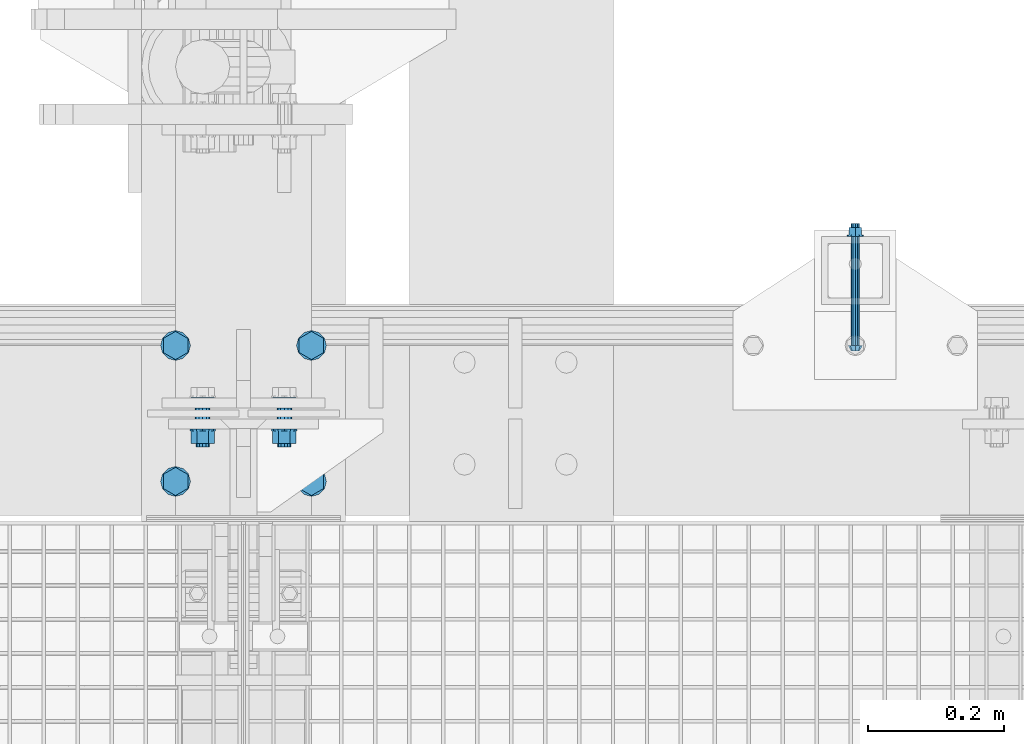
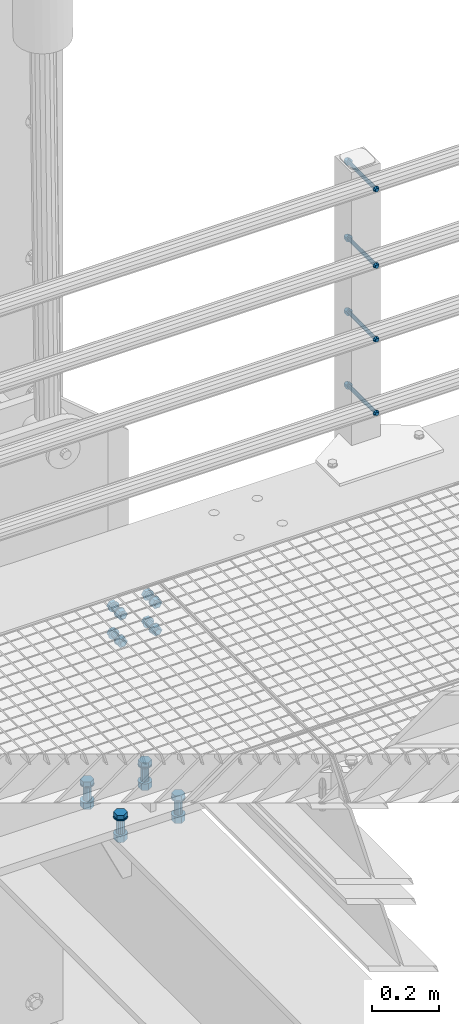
# One storey, part 47 of 1530: 6 mechanical fasteners.
"""IFC2X3 building model written with IfcOpenShell, lengths in millimetres."""

from ifc_helpers import new_model, si_unit, frame, origin_with_axes, place, context, subcontext, project, spatial, faceted_brep, source, transform, mapped, material, type_object, element, save


model = new_model("IFC2X3")

# Units and contexts
model_context = context("Model", 3, precision=1e-05, world=origin_with_axes())
body_context = subcontext(model_context, "Body", "Model", "MODEL_VIEW")
ifc_project = project(units=[si_unit("LENGTHUNIT", "METRE", prefix="MILLI"), si_unit("AREAUNIT", "SQUARE_METRE"), si_unit("VOLUMEUNIT", "CUBIC_METRE"), si_unit("MASSUNIT", "GRAM", prefix="KILO"), si_unit("TIMEUNIT", "SECOND"), si_unit("PLANEANGLEUNIT", "RADIAN"), si_unit("SOLIDANGLEUNIT", "STERADIAN"), si_unit("THERMODYNAMICTEMPERATUREUNIT", "DEGREE_CELSIUS"), si_unit("LUMINOUSINTENSITYUNIT", "LUMEN")], contexts=[model_context])

# Site, building, storey
site_placement = place(None, origin_with_axes())
site = spatial("IfcSite", under=ifc_project, at=site_placement, Name="Brattvåg", CompositionType="ELEMENT")
building_placement = place(site_placement, origin_with_axes())
building = spatial("IfcBuilding", under=site, at=building_placement, Name="Undefined", CompositionType="ELEMENT")
storey_placement = place(building_placement, origin_with_axes())
storey = spatial("IfcBuildingStorey", under=building, at=storey_placement, Name="Undefined", CompositionType="ELEMENT", Elevation=0.0)

# Mechanical fasteners
ifc_material = material(Name="8")
mechanical_fastener_type = type_object("IfcMechanicalFastenerType", Name="Bolt assembly")
shared_shape_1 = source(origin_with_axes(), body_context, "Body", "Brep", [
    faceted_brep([(6.49435320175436, -7.49984019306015, 0.0), (4.59220118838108, -7.49984019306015, 4.59220118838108), (3.97664443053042e-16, -7.49984019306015, 6.49435320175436), (-4.59220118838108, -7.49984019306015, 4.59220118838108), (-6.49435320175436, -7.49984019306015, 7.95328886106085e-16), (-4.59220118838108, -7.49984019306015, -4.59220118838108), (-1.19299332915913e-15, -7.49984019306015, -6.49435320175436), (4.59220118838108, -7.49984019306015, -4.59220118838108), (7.34846922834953, 0.000159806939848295, -7.34846922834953), (-1.90903542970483e-15, 0.000159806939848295, -10.3923048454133), (-7.34846922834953, 0.000159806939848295, -7.34846922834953), (-10.3923048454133, 0.000159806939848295, 1.27269028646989e-15), (-7.34846922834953, 0.000159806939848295, 7.34846922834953), (6.36345143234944e-16, 0.000159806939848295, 10.3923048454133), (7.34846922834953, 0.000159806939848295, 7.34846922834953), (10.3923048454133, 0.000159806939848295, 0.0), (6.0, 0.000159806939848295, 0.0), (5.19615242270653, 0.000159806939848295, 3.00000000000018), (2.99999999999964, 0.000159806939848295, 5.19615242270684), (-6.21801588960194e-13, 0.000159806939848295, 6.0), (-3.00000000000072, 0.000159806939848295, 5.19615242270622), (-5.19615242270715, 0.000159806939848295, 2.9999999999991), (-6.0, 0.000159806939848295, -1.24360317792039e-12), (-5.19615242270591, 0.000159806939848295, -3.00000000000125), (-2.99999999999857, 0.000159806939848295, -5.19615242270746), (1.85874342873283e-12, 0.000159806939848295, -6.0), (3.00000000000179, 0.000159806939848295, -5.1961524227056), (5.19615242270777, 0.000159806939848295, -2.99999999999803), (5.19615242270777, 180.00015980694, -2.99999999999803), (3.00000000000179, 180.00015980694, -5.1961524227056), (1.85874342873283e-12, 180.00015980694, -6.0), (-2.99999999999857, 180.00015980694, -5.19615242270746), (-5.19615242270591, 180.00015980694, -3.00000000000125), (-6.0, 180.00015980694, -1.24360317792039e-12), (-5.19615242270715, 180.00015980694, 2.9999999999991), (-3.00000000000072, 180.00015980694, 5.19615242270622), (-6.21801588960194e-13, 180.00015980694, 6.0), (2.99999999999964, 180.00015980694, 5.19615242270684), (5.19615242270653, 180.00015980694, 3.00000000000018), (6.0, 180.00015980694, 0.0), (12.0, 160.299998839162, 0.0), (10.3923048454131, 160.299998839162, 6.00000000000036), (5.99999999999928, 160.299998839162, 10.3923048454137), (-1.24360317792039e-12, 160.299998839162, 12.0), (-6.00000000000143, 160.299998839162, 10.3923048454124), (-10.3923048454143, 160.299998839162, 5.99999999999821), (-12.0, 160.299998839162, -2.48720635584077e-12), (-10.3923048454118, 160.299998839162, -6.00000000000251), (-5.99999999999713, 160.299998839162, -10.3923048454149), (3.71748685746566e-12, 160.299998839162, -12.0), (6.00000000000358, 160.299998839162, -10.3923048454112), (10.3923048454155, 160.299998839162, -5.99999999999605), (10.3923048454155, 162.799998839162, -5.99999999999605), (6.00000000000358, 162.799998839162, -10.3923048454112), (3.71748685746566e-12, 162.799998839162, -12.0), (-5.99999999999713, 162.799998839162, -10.3923048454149), (-10.3923048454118, 162.799998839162, -6.00000000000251), (-12.0, 162.799998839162, -2.48720635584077e-12), (-10.3923048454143, 162.799998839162, 5.99999999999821), (-6.00000000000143, 162.799998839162, 10.3923048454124), (-1.24360317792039e-12, 162.799998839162, 12.0), (5.99999999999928, 162.799998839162, 10.3923048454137), (10.3923048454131, 162.799998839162, 6.00000000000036), (12.0, 162.799998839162, 0.0), (10.9696551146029, 162.799998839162, 0.0), (5.48482755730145, 162.799998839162, 9.5), (-5.48482755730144, 162.799998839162, 9.5), (-10.9696551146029, 162.799998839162, 1.34339530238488e-15), (-5.48482755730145, 162.799998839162, -9.5), (5.48482755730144, 162.799998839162, -9.5), (5.48482755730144, 173.599999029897, -9.5), (-5.48482755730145, 173.599999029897, -9.5), (-10.9696551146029, 173.599999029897, 1.34339530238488e-15), (-5.48482755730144, 173.599999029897, 9.5), (5.48482755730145, 173.599999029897, 9.5), (10.9696551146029, 173.599999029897, 0.0)], [[[0, 1, 2, 3, 4, 5, 6, 7]], [[8, 9, 10, 11, 12, 13, 14, 15]], [[0, 15, 14, 1]], [[1, 14, 13, 2]], [[2, 13, 12, 3]], [[3, 12, 11, 4]], [[4, 11, 10, 5]], [[5, 10, 9, 6]], [[6, 9, 8, 7]], [[7, 8, 15, 0]], [[16, 17, 18, 19, 20, 21, 22, 23, 24, 25, 26, 27]], [[28, 29, 30, 31, 32, 33, 34, 35, 36, 37, 38, 39]], [[16, 39, 38, 17]], [[17, 38, 37, 18]], [[18, 37, 36, 19]], [[19, 36, 35, 20]], [[20, 35, 34, 21]], [[21, 34, 33, 22]], [[22, 33, 32, 23]], [[23, 32, 31, 24]], [[24, 31, 30, 25]], [[25, 30, 29, 26]], [[26, 29, 28, 27]], [[27, 28, 39, 16]], [[40, 41, 42, 43, 44, 45, 46, 47, 48, 49, 50, 51]], [[52, 53, 54, 55, 56, 57, 58, 59, 60, 61, 62, 63]], [[40, 63, 62, 41]], [[41, 62, 61, 42]], [[42, 61, 60, 43]], [[43, 60, 59, 44]], [[44, 59, 58, 45]], [[45, 58, 57, 46]], [[46, 57, 56, 47]], [[47, 56, 55, 48]], [[48, 55, 54, 49]], [[49, 54, 53, 50]], [[50, 53, 52, 51]], [[51, 52, 63, 40]], [[64, 65, 66, 67, 68, 69]], [[70, 71, 72, 73, 74, 75]], [[64, 75, 74, 65]], [[65, 74, 73, 66]], [[66, 73, 72, 67]], [[67, 72, 71, 68]], [[68, 71, 70, 69]], [[69, 70, 75, 64]]]),
    faceted_brep([(6.5, 0.100159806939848, 0.0), (5.62916512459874, 0.100159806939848, 3.25000000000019), (3.24999999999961, 0.100159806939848, 5.62916512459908), (-6.7361838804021e-13, 0.100159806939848, 6.5), (-3.25000000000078, 0.100159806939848, 5.6291651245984), (-5.62916512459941, 0.100159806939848, 3.24999999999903), (-6.5, 0.100159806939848, -1.34723677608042e-12), (-5.62916512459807, 0.100159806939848, -3.25000000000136), (-3.24999999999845, 0.100159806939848, -5.62916512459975), (2.01363871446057e-12, 0.100159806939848, -6.5), (3.25000000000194, 0.100159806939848, -5.62916512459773), (5.62916512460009, 0.100159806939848, -3.24999999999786), (5.62916512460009, 60.4001552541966, -3.24999999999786), (3.25000000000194, 60.4001552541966, -5.62916512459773), (2.01363871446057e-12, 60.4001552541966, -6.5), (-3.24999999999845, 60.4001552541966, -5.62916512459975), (-5.62916512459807, 60.4001552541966, -3.25000000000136), (-6.5, 60.4001552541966, -1.34723677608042e-12), (-5.62916512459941, 60.4001552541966, 3.24999999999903), (-3.25000000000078, 60.4001552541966, 5.6291651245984), (-6.7361838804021e-13, 60.4001552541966, 6.5), (3.24999999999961, 60.4001552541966, 5.62916512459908), (5.62916512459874, 60.4001552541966, 3.25000000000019), (6.5, 60.4001552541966, 0.0), (6.5, 60.1999988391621, 0.0), (5.62916512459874, 60.1999988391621, 3.25000000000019), (3.24999999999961, 60.1999988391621, 5.62916512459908), (-6.7361838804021e-13, 60.1999988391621, 6.5), (-3.25000000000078, 60.1999988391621, 5.6291651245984), (-5.62916512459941, 60.1999988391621, 3.24999999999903), (-6.5, 60.1999988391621, -1.34723677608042e-12), (-5.62916512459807, 60.1999988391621, -3.25000000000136), (-3.24999999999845, 60.1999988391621, -5.62916512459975), (2.01363871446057e-12, 60.1999988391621, -6.5), (3.25000000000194, 60.1999988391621, -5.62916512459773), (5.62916512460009, 60.1999988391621, -3.24999999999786), (5.62916512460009, 160.299998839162, -3.24999999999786), (3.25000000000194, 160.299998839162, -5.62916512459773), (2.01363871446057e-12, 160.299998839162, -6.5), (-3.24999999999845, 160.299998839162, -5.62916512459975), (-5.62916512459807, 160.299998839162, -3.25000000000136), (-6.5, 160.299998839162, -1.34723677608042e-12), (-5.62916512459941, 160.299998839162, 3.24999999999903), (-3.25000000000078, 160.299998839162, 5.6291651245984), (-6.7361838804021e-13, 160.299998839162, 6.5), (3.24999999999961, 160.299998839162, 5.62916512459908), (5.62916512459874, 160.299998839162, 3.25000000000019), (6.5, 160.299998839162, 0.0)], [[[0, 1, 2, 3, 4, 5, 6, 7, 8, 9, 10, 11]], [[12, 13, 14, 15, 16, 17, 18, 19, 20, 21, 22, 23]], [[0, 23, 22, 1]], [[1, 22, 21, 2]], [[2, 21, 20, 3]], [[3, 20, 19, 4]], [[4, 19, 18, 5]], [[5, 18, 17, 6]], [[6, 17, 16, 7]], [[7, 16, 15, 8]], [[8, 15, 14, 9]], [[9, 14, 13, 10]], [[10, 13, 12, 11]], [[11, 12, 23, 0]], [[24, 25, 26, 27, 28, 29, 30, 31, 32, 33, 34, 35]], [[36, 37, 38, 39, 40, 41, 42, 43, 44, 45, 46, 47]], [[24, 47, 46, 25]], [[25, 46, 45, 26]], [[26, 45, 44, 27]], [[27, 44, 43, 28]], [[28, 43, 42, 29]], [[29, 42, 41, 30]], [[30, 41, 40, 31]], [[31, 40, 39, 32]], [[32, 39, 38, 33]], [[33, 38, 37, 34]], [[34, 37, 36, 35]], [[35, 36, 47, 24]]]),
])
for number, where, z_axis, x_axis, name in (
    (1, (13149.9999999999, 9099.69972268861, 149.550000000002), (1.0, 0.0, 0.0), (0.0, 0.0, -1.0), "Bolt assembly"),
    (2, (13149.9999999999, 9099.69972268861, 419.550000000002), (1.0, 0.0, 0.0), (0.0, 0.0, -1.0), "Bolt assembly"),
    (3, (13149.9999999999, 9099.69972268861, 689.550000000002), (1.0, 0.0, 0.0), (0.0, 0.0, -1.0), "Bolt assembly"),
    (4, (13149.9999999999, 9099.69972268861, 969.550000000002), (1.0, 0.0, 0.0), (0.0, 0.0, -1.0), "Bolt assembly"),
):
    element("IfcMechanicalFastener", number, at=place(storey_placement, frame(where, z_axis=z_axis, x_axis=x_axis)), inside=storey, type_object=mechanical_fastener_type, material=ifc_material, Name=name, NominalDiameter=12.0, NominalLength=180.0, context=body_context, shape_type="MappedRepresentation", body=[
        mapped(shared_shape_1, transform((0.0, 0.0, 0.0))),
    ])
shared_shape_2 = source(origin_with_axes(), body_context, "Body", "Brep", [
    faceted_brep([(20.7846096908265, -19.0, 0.0), (10.3923048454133, -19.0, 18.0), (-10.3923048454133, -19.0, 18.0), (-20.7846096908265, -19.0, 2.54538057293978e-15), (-10.3923048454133, -19.0, -18.0), (10.3923048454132, -19.0, -18.0), (10.3923048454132, -4.0, -18.0), (-10.3923048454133, -4.0, -18.0), (-20.7846096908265, -4.0, 2.54538057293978e-15), (-10.3923048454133, -4.0, 18.0), (10.3923048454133, -4.0, 18.0), (20.7846096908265, -4.0, 0.0), (12.0, -4.0, 0.0), (10.3923048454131, -4.0, 6.00000000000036), (5.99999999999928, -4.0, 10.3923048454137), (-1.24360317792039e-12, -4.0, 12.0), (-6.00000000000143, -4.0, 10.3923048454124), (-10.3923048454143, -4.0, 5.99999999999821), (-12.0, -4.0, -2.48720635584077e-12), (-10.3923048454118, -4.0, -6.00000000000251), (-5.99999999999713, -4.0, -10.3923048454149), (3.71748685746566e-12, -4.0, -12.0), (6.00000000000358, -4.0, -10.3923048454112), (10.3923048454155, -4.0, -5.99999999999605), (10.3923048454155, 86.0, -5.99999999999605), (6.00000000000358, 86.0, -10.3923048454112), (3.71748685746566e-12, 86.0, -12.0), (-5.99999999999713, 86.0, -10.3923048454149), (-10.3923048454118, 86.0, -6.00000000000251), (-12.0, 86.0, -2.48720635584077e-12), (-10.3923048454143, 86.0, 5.99999999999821), (-6.00000000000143, 86.0, 10.3923048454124), (-1.24360317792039e-12, 86.0, 12.0), (5.99999999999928, 86.0, 10.3923048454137), (10.3923048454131, 86.0, 6.00000000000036), (12.0, 86.0, 0.0), (22.0, -4.0, 0.0), (19.0525588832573, -4.0, 11.0000000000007), (10.9999999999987, -4.0, 19.0525588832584), (-2.27993915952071e-12, -4.0, 22.0), (-11.0000000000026, -4.0, 19.0525588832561), (-19.0525588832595, -4.0, 10.9999999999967), (-22.0, -4.0, -4.55987831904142e-12), (-19.052558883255, -4.0, -11.0000000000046), (-10.9999999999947, -4.0, -19.0525588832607), (6.81539257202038e-12, -4.0, -22.0), (11.0000000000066, -4.0, -19.0525588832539), (19.0525588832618, -4.0, -10.9999999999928), (19.0525588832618, 0.0, -10.9999999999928), (11.0000000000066, 0.0, -19.0525588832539), (6.81539257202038e-12, 0.0, -22.0), (-10.9999999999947, 0.0, -19.0525588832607), (-19.052558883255, 0.0, -11.0000000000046), (-22.0, 0.0, -4.55987831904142e-12), (-19.0525588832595, 0.0, 10.9999999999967), (-11.0000000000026, 0.0, 19.0525588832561), (-2.27993915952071e-12, 0.0, 22.0), (10.9999999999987, 0.0, 19.0525588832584), (19.0525588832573, 0.0, 11.0000000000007), (22.0, 0.0, 0.0), (22.0, 54.9998779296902, 0.0), (19.0525588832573, 54.9998779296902, 11.0000000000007), (10.9999999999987, 54.9998779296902, 19.0525588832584), (-2.27993915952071e-12, 54.9998779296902, 22.0), (-11.0000000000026, 54.9998779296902, 19.0525588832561), (-19.0525588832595, 54.9998779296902, 10.9999999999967), (-22.0, 54.9998779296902, -4.55987831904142e-12), (-19.052558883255, 54.9998779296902, -11.0000000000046), (-10.9999999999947, 54.9998779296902, -19.0525588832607), (6.81539257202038e-12, 54.9998779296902, -22.0), (11.0000000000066, 54.9998779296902, -19.0525588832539), (19.0525588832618, 54.9998779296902, -10.9999999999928), (19.0525588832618, 58.9998779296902, -10.9999999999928), (11.0000000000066, 58.9998779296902, -19.0525588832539), (6.81539257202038e-12, 58.9998779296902, -22.0), (-10.9999999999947, 58.9998779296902, -19.0525588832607), (-19.052558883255, 58.9998779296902, -11.0000000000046), (-22.0, 58.9998779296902, -4.55987831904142e-12), (-19.0525588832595, 58.9998779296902, 10.9999999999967), (-11.0000000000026, 58.9998779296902, 19.0525588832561), (-2.27993915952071e-12, 58.9998779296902, 22.0), (10.9999999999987, 58.9998779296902, 19.0525588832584), (19.0525588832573, 58.9998779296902, 11.0000000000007), (22.0, 58.9998779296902, 0.0), (20.7846096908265, 58.9998779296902, 0.0), (10.3923048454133, 58.9998779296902, 18.0), (-10.3923048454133, 58.9998779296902, 18.0), (-20.7846096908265, 58.9998779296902, 2.54538057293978e-15), (-10.3923048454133, 58.9998779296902, -18.0), (10.3923048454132, 58.9998779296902, -18.0), (10.3923048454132, 80.4998779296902, -18.0), (-10.3923048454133, 80.4998779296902, -18.0), (-20.7846096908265, 80.4998779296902, 2.54538057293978e-15), (-10.3923048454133, 80.4998779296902, 18.0), (10.3923048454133, 80.4998779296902, 18.0), (20.7846096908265, 80.4998779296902, 0.0)], [[[0, 1, 2, 3, 4, 5]], [[6, 7, 8, 9, 10, 11]], [[0, 11, 10, 1]], [[1, 10, 9, 2]], [[2, 9, 8, 3]], [[3, 8, 7, 4]], [[4, 7, 6, 5]], [[5, 6, 11, 0]], [[12, 13, 14, 15, 16, 17, 18, 19, 20, 21, 22, 23]], [[24, 25, 26, 27, 28, 29, 30, 31, 32, 33, 34, 35]], [[12, 35, 34, 13]], [[13, 34, 33, 14]], [[14, 33, 32, 15]], [[15, 32, 31, 16]], [[16, 31, 30, 17]], [[17, 30, 29, 18]], [[18, 29, 28, 19]], [[19, 28, 27, 20]], [[20, 27, 26, 21]], [[21, 26, 25, 22]], [[22, 25, 24, 23]], [[23, 24, 35, 12]], [[36, 37, 38, 39, 40, 41, 42, 43, 44, 45, 46, 47]], [[48, 49, 50, 51, 52, 53, 54, 55, 56, 57, 58, 59]], [[36, 59, 58, 37]], [[37, 58, 57, 38]], [[38, 57, 56, 39]], [[39, 56, 55, 40]], [[40, 55, 54, 41]], [[41, 54, 53, 42]], [[42, 53, 52, 43]], [[43, 52, 51, 44]], [[44, 51, 50, 45]], [[45, 50, 49, 46]], [[46, 49, 48, 47]], [[47, 48, 59, 36]], [[60, 61, 62, 63, 64, 65, 66, 67, 68, 69, 70, 71]], [[72, 73, 74, 75, 76, 77, 78, 79, 80, 81, 82, 83]], [[60, 83, 82, 61]], [[61, 82, 81, 62]], [[62, 81, 80, 63]], [[63, 80, 79, 64]], [[64, 79, 78, 65]], [[65, 78, 77, 66]], [[66, 77, 76, 67]], [[67, 76, 75, 68]], [[68, 75, 74, 69]], [[69, 74, 73, 70]], [[70, 73, 72, 71]], [[71, 72, 83, 60]], [[84, 85, 86, 87, 88, 89]], [[90, 91, 92, 93, 94, 95]], [[84, 95, 94, 85]], [[85, 94, 93, 86]], [[86, 93, 92, 87]], [[87, 92, 91, 88]], [[88, 91, 90, 89]], [[89, 90, 95, 84]]]),
    faceted_brep([(13.0, 0.0999999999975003, 0.0), (11.2583302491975, 0.0999999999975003, 6.50000000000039), (6.49999999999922, 0.0999999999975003, 11.2583302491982), (-1.34723677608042e-12, 0.0999999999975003, 13.0), (-6.50000000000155, 0.0999999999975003, 11.2583302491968), (-11.2583302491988, 0.0999999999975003, 6.49999999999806), (-13.0, 0.0999999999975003, -2.69447355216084e-12), (-11.2583302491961, 0.0999999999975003, -6.50000000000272), (-6.4999999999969, 0.0999999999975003, -11.2583302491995), (4.02727742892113e-12, 0.0999999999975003, -13.0), (6.50000000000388, 0.0999999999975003, -11.2583302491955), (11.2583302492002, 0.0999999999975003, -6.49999999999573), (11.2583302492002, 30.1, -6.49999999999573), (6.50000000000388, 30.1, -11.2583302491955), (4.02727742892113e-12, 30.1, -13.0), (-6.4999999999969, 30.1, -11.2583302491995), (-11.2583302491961, 30.1, -6.50000000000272), (-13.0, 30.1, -2.69447355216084e-12), (-11.2583302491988, 30.1, 6.49999999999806), (-6.50000000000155, 30.1, 11.2583302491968), (-1.34723677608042e-12, 30.1, 13.0), (6.49999999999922, 30.1, 11.2583302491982), (11.2583302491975, 30.1, 6.50000000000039), (13.0, 30.1, 0.0), (13.0, 29.8998779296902, 0.0), (11.2583302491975, 29.8998779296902, 6.50000000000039), (6.49999999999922, 29.8998779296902, 11.2583302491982), (-1.34723677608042e-12, 29.8998779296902, 13.0), (-6.50000000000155, 29.8998779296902, 11.2583302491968), (-11.2583302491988, 29.8998779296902, 6.49999999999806), (-13.0, 29.8998779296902, -2.69447355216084e-12), (-11.2583302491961, 29.8998779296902, -6.50000000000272), (-6.4999999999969, 29.8998779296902, -11.2583302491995), (4.02727742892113e-12, 29.8998779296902, -13.0), (6.50000000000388, 29.8998779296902, -11.2583302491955), (11.2583302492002, 29.8998779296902, -6.49999999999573), (11.2583302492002, 54.9998779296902, -6.49999999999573), (6.50000000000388, 54.9998779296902, -11.2583302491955), (4.02727742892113e-12, 54.9998779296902, -13.0), (-6.4999999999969, 54.9998779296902, -11.2583302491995), (-11.2583302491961, 54.9998779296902, -6.50000000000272), (-13.0, 54.9998779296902, -2.69447355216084e-12), (-11.2583302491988, 54.9998779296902, 6.49999999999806), (-6.50000000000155, 54.9998779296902, 11.2583302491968), (-1.34723677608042e-12, 54.9998779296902, 13.0), (6.49999999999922, 54.9998779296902, 11.2583302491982), (11.2583302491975, 54.9998779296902, 6.50000000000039), (13.0, 54.9998779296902, 0.0)], [[[0, 1, 2, 3, 4, 5, 6, 7, 8, 9, 10, 11]], [[12, 13, 14, 15, 16, 17, 18, 19, 20, 21, 22, 23]], [[0, 23, 22, 1]], [[1, 22, 21, 2]], [[2, 21, 20, 3]], [[3, 20, 19, 4]], [[4, 19, 18, 5]], [[5, 18, 17, 6]], [[6, 17, 16, 7]], [[7, 16, 15, 8]], [[8, 15, 14, 9]], [[9, 14, 13, 10]], [[10, 13, 12, 11]], [[11, 12, 23, 0]], [[24, 25, 26, 27, 28, 29, 30, 31, 32, 33, 34, 35]], [[36, 37, 38, 39, 40, 41, 42, 43, 44, 45, 46, 47]], [[24, 47, 46, 25]], [[25, 46, 45, 26]], [[26, 45, 44, 27]], [[27, 44, 43, 28]], [[28, 43, 42, 29]], [[29, 42, 41, 30]], [[30, 41, 40, 31]], [[31, 40, 39, 32]], [[32, 39, 38, 33]], [[33, 38, 37, 34]], [[34, 37, 36, 35]], [[35, 36, 47, 24]]]),
])
mechanical_fastener_1_placement = place(storey_placement, frame((12250.0000839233, 9100.0, -860.0), z_axis=(1.0, 0.0, 0.0), x_axis=(0.0, -1.0, 0.0)))
element("IfcMechanicalFastener", 5, at=mechanical_fastener_1_placement, inside=storey, type_object=mechanical_fastener_type, material=ifc_material, Name="Bolt assembly", NominalDiameter=24.0, NominalLength=90.0, context=body_context, shape_type="MappedRepresentation", body=[
    mapped(shared_shape_2, transform((0.0, 0.0, -100.0))),
    mapped(shared_shape_2, transform((200.0, 0.0, -100.0))),
    mapped(shared_shape_2, transform((0.0, 0.0, 100.0))),
    mapped(shared_shape_2, transform((200.0, 0.0, 100.0))),
])
shared_shape_3 = source(origin_with_axes(), body_context, "Body", "Brep", [
    faceted_brep([(17.3205080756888, -31.4985046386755, 0.0), (8.66025403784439, -31.4985046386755, 15.0), (-8.66025403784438, -31.4985046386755, 15.0), (-17.3205080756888, -31.4985046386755, 2.12115047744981e-15), (-8.66025403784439, -31.4985046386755, -15.0), (8.66025403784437, -31.4985046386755, -15.0), (8.66025403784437, -18.9985046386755, -15.0), (-8.66025403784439, -18.9985046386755, -15.0), (-17.3205080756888, -18.9985046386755, 2.12115047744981e-15), (-8.66025403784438, -18.9985046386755, 15.0), (8.66025403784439, -18.9985046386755, 15.0), (17.3205080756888, -18.9985046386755, 0.0), (10.0, -18.9985046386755, 0.0), (8.66025403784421, -18.9985046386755, 5.0000000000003), (4.9999999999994, -18.9985046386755, 8.66025403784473), (-1.03633598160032e-12, -18.9985046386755, 10.0), (-5.00000000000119, -18.9985046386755, 8.6602540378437), (-8.66025403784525, -18.9985046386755, 4.99999999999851), (-10.0, -18.9985046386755, -2.07267196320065e-12), (-8.66025403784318, -18.9985046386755, -5.00000000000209), (-4.99999999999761, -18.9985046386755, -8.66025403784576), (3.09790571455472e-12, -18.9985046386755, -10.0), (5.00000000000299, -18.9985046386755, -8.66025403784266), (8.66025403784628, -18.9985046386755, -4.99999999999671), (8.66025403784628, 41.0014953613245, -4.99999999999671), (5.00000000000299, 41.0014953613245, -8.66025403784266), (3.09790571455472e-12, 41.0014953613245, -10.0), (-4.99999999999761, 41.0014953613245, -8.66025403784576), (-8.66025403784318, 41.0014953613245, -5.00000000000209), (-10.0, 41.0014953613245, -2.07267196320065e-12), (-8.66025403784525, 41.0014953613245, 4.99999999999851), (-5.00000000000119, 41.0014953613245, 8.6602540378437), (-1.03633598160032e-12, 41.0014953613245, 10.0), (4.9999999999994, 41.0014953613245, 8.66025403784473), (8.66025403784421, 41.0014953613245, 5.0000000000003), (10.0, 41.0014953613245, 0.0), (18.5, -18.9985046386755, 0.0), (16.0214699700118, -18.9985046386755, 9.25000000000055), (9.2499999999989, -18.9985046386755, 16.0214699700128), (-1.9172215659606e-12, -18.9985046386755, 18.5), (-9.25000000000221, -18.9985046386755, 16.0214699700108), (-16.0214699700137, -18.9985046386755, 9.24999999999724), (-18.5, -18.9985046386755, -3.83444313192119e-12), (-16.0214699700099, -18.9985046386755, -9.25000000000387), (-9.24999999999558, -18.9985046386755, -16.0214699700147), (5.73112557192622e-12, -18.9985046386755, -18.5), (9.25000000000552, -18.9985046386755, -16.0214699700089), (16.0214699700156, -18.9985046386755, -9.24999999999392), (16.0214699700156, -15.9985046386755, -9.24999999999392), (9.25000000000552, -15.9985046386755, -16.0214699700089), (5.73112557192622e-12, -15.9985046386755, -18.5), (-9.24999999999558, -15.9985046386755, -16.0214699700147), (-16.0214699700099, -15.9985046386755, -9.25000000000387), (-18.5, -15.9985046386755, -3.83444313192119e-12), (-16.0214699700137, -15.9985046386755, 9.24999999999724), (-9.25000000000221, -15.9985046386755, 16.0214699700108), (-1.9172215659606e-12, -15.9985046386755, 18.5), (9.2499999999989, -15.9985046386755, 16.0214699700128), (16.0214699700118, -15.9985046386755, 9.25000000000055), (18.5, -15.9985046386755, 0.0), (18.5, 15.0000000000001, 0.0), (16.0214699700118, 15.0000000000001, 9.25000000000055), (9.2499999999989, 15.0000000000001, 16.0214699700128), (-1.9172215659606e-12, 15.0000000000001, 18.5), (-9.25000000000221, 15.0000000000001, 16.0214699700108), (-16.0214699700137, 15.0000000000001, 9.24999999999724), (-18.5, 15.0000000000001, -3.83444313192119e-12), (-16.0214699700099, 15.0000000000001, -9.25000000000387), (-9.24999999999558, 15.0000000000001, -16.0214699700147), (5.73112557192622e-12, 15.0000000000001, -18.5), (9.25000000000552, 15.0000000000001, -16.0214699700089), (16.0214699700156, 15.0000000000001, -9.24999999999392), (16.0214699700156, 18.0000000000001, -9.24999999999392), (9.25000000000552, 18.0000000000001, -16.0214699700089), (5.73112557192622e-12, 18.0000000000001, -18.5), (-9.24999999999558, 18.0000000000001, -16.0214699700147), (-16.0214699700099, 18.0000000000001, -9.25000000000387), (-18.5, 18.0000000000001, -3.83444313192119e-12), (-16.0214699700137, 18.0000000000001, 9.24999999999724), (-9.25000000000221, 18.0000000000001, 16.0214699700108), (-1.9172215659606e-12, 18.0000000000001, 18.5), (9.2499999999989, 18.0000000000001, 16.0214699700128), (16.0214699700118, 18.0000000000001, 9.25000000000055), (18.5, 18.0000000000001, 0.0), (17.3205080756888, 18.0000000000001, 0.0), (8.66025403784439, 18.0000000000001, 15.0), (-8.66025403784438, 18.0000000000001, 15.0), (-17.3205080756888, 18.0000000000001, 2.12115047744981e-15), (-8.66025403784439, 18.0000000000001, -15.0), (8.66025403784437, 18.0000000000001, -15.0), (8.66025403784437, 36.0000000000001, -15.0), (-8.66025403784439, 36.0000000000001, -15.0), (-17.3205080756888, 36.0000000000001, 2.12115047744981e-15), (-8.66025403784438, 36.0000000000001, 15.0), (8.66025403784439, 36.0000000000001, 15.0), (17.3205080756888, 36.0000000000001, 0.0)], [[[0, 1, 2, 3, 4, 5]], [[6, 7, 8, 9, 10, 11]], [[0, 11, 10, 1]], [[1, 10, 9, 2]], [[2, 9, 8, 3]], [[3, 8, 7, 4]], [[4, 7, 6, 5]], [[5, 6, 11, 0]], [[12, 13, 14, 15, 16, 17, 18, 19, 20, 21, 22, 23]], [[24, 25, 26, 27, 28, 29, 30, 31, 32, 33, 34, 35]], [[12, 35, 34, 13]], [[13, 34, 33, 14]], [[14, 33, 32, 15]], [[15, 32, 31, 16]], [[16, 31, 30, 17]], [[17, 30, 29, 18]], [[18, 29, 28, 19]], [[19, 28, 27, 20]], [[20, 27, 26, 21]], [[21, 26, 25, 22]], [[22, 25, 24, 23]], [[23, 24, 35, 12]], [[36, 37, 38, 39, 40, 41, 42, 43, 44, 45, 46, 47]], [[48, 49, 50, 51, 52, 53, 54, 55, 56, 57, 58, 59]], [[36, 59, 58, 37]], [[37, 58, 57, 38]], [[38, 57, 56, 39]], [[39, 56, 55, 40]], [[40, 55, 54, 41]], [[41, 54, 53, 42]], [[42, 53, 52, 43]], [[43, 52, 51, 44]], [[44, 51, 50, 45]], [[45, 50, 49, 46]], [[46, 49, 48, 47]], [[47, 48, 59, 36]], [[60, 61, 62, 63, 64, 65, 66, 67, 68, 69, 70, 71]], [[72, 73, 74, 75, 76, 77, 78, 79, 80, 81, 82, 83]], [[60, 83, 82, 61]], [[61, 82, 81, 62]], [[62, 81, 80, 63]], [[63, 80, 79, 64]], [[64, 79, 78, 65]], [[65, 78, 77, 66]], [[66, 77, 76, 67]], [[67, 76, 75, 68]], [[68, 75, 74, 69]], [[69, 74, 73, 70]], [[70, 73, 72, 71]], [[71, 72, 83, 60]], [[84, 85, 86, 87, 88, 89]], [[90, 91, 92, 93, 94, 95]], [[84, 95, 94, 85]], [[85, 94, 93, 86]], [[86, 93, 92, 87]], [[87, 92, 91, 88]], [[88, 91, 90, 89]], [[89, 90, 95, 84]]]),
    faceted_brep([(11.0, -15.8985046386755, 0.0), (9.52627944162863, -15.8985046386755, 5.50000000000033), (5.49999999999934, -15.8985046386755, 9.5262794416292), (-1.13996957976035e-12, -15.8985046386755, 11.0), (-5.50000000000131, -15.8985046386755, 9.52627944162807), (-9.52627944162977, -15.8985046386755, 5.49999999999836), (-11.0, -15.8985046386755, -2.27993915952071e-12), (-9.5262794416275, -15.8985046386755, -5.5000000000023), (-5.49999999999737, -15.8985046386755, -9.52627944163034), (3.40769628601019e-12, -15.8985046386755, -11.0), (5.50000000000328, -15.8985046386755, -9.52627944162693), (9.52627944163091, -15.8985046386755, -5.49999999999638), (9.52627944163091, 0.101495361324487, -5.49999999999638), (5.50000000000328, 0.101495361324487, -9.52627944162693), (3.40769628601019e-12, 0.101495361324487, -11.0), (-5.49999999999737, 0.101495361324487, -9.52627944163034), (-9.5262794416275, 0.101495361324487, -5.5000000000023), (-11.0, 0.101495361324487, -2.27993915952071e-12), (-9.52627944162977, 0.101495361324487, 5.49999999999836), (-5.50000000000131, 0.101495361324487, 9.52627944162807), (-1.13996957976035e-12, 0.101495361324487, 11.0), (5.49999999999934, 0.101495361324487, 9.5262794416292), (9.52627944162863, 0.101495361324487, 5.50000000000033), (11.0, 0.101495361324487, 0.0), (11.0, -0.1, 0.0), (9.52627944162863, -0.1, 5.50000000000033), (5.49999999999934, -0.1, 9.5262794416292), (-1.13996957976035e-12, -0.1, 11.0), (-5.50000000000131, -0.1, 9.52627944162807), (-9.52627944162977, -0.1, 5.49999999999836), (-11.0, -0.1, -2.27993915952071e-12), (-9.5262794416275, -0.1, -5.5000000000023), (-5.49999999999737, -0.1, -9.52627944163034), (3.40769628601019e-12, -0.1, -11.0), (5.50000000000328, -0.1, -9.52627944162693), (9.52627944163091, -0.1, -5.49999999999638), (9.52627944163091, 15.0000000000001, -5.49999999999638), (5.50000000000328, 15.0000000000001, -9.52627944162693), (3.40769628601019e-12, 15.0000000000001, -11.0), (-5.49999999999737, 15.0000000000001, -9.52627944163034), (-9.5262794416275, 15.0000000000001, -5.5000000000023), (-11.0, 15.0000000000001, -2.27993915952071e-12), (-9.52627944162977, 15.0000000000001, 5.49999999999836), (-5.50000000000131, 15.0000000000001, 9.52627944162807), (-1.13996957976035e-12, 15.0000000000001, 11.0), (5.49999999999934, 15.0000000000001, 9.5262794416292), (9.52627944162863, 15.0000000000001, 5.50000000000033), (11.0, 15.0000000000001, 0.0)], [[[0, 1, 2, 3, 4, 5, 6, 7, 8, 9, 10, 11]], [[12, 13, 14, 15, 16, 17, 18, 19, 20, 21, 22, 23]], [[0, 23, 22, 1]], [[1, 22, 21, 2]], [[2, 21, 20, 3]], [[3, 20, 19, 4]], [[4, 19, 18, 5]], [[5, 18, 17, 6]], [[6, 17, 16, 7]], [[7, 16, 15, 8]], [[8, 15, 14, 9]], [[9, 14, 13, 10]], [[10, 13, 12, 11]], [[11, 12, 23, 0]], [[24, 25, 26, 27, 28, 29, 30, 31, 32, 33, 34, 35]], [[36, 37, 38, 39, 40, 41, 42, 43, 44, 45, 46, 47]], [[24, 47, 46, 25]], [[25, 46, 45, 26]], [[26, 45, 44, 27]], [[27, 44, 43, 28]], [[28, 43, 42, 29]], [[29, 42, 41, 30]], [[30, 41, 40, 31]], [[31, 40, 39, 32]], [[32, 39, 38, 33]], [[33, 38, 37, 34]], [[34, 37, 36, 35]], [[35, 36, 47, 24]]]),
])
mechanical_fastener_2_placement = place(storey_placement, frame((12310.0019683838, 8992.00149536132, -219.998836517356), z_axis=(0.0, 0.0, 1.0), x_axis=(-1.0, 1.99999855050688e-09, 0.0)))
element("IfcMechanicalFastener", 6, at=mechanical_fastener_2_placement, inside=storey, type_object=mechanical_fastener_type, material=ifc_material, Name="Bolt assembly", NominalDiameter=20.0, NominalLength=60.0, context=body_context, shape_type="MappedRepresentation", body=[
    mapped(shared_shape_3, transform((0.0, 0.0, -50.0))),
    mapped(shared_shape_3, transform((120.0, 0.0, -50.0))),
    mapped(shared_shape_3, transform((0.0, 0.0, 50.0))),
    mapped(shared_shape_3, transform((120.0, 0.0, 50.0))),
])

save(model, "model.ifc")
